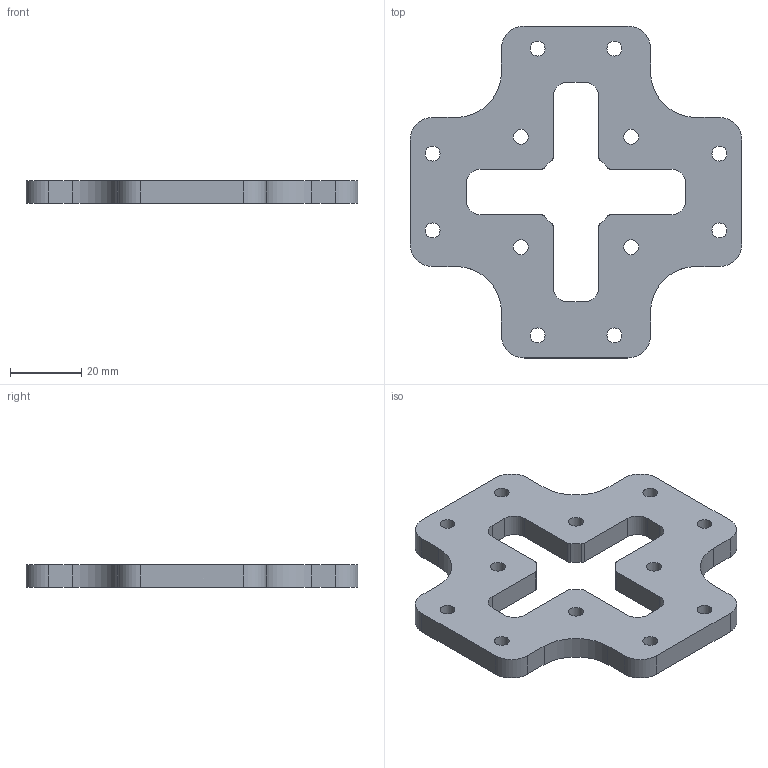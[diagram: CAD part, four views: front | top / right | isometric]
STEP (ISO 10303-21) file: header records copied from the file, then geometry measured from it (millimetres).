
FILE_DESCRIPTION(/* description */ ('STEP AP242 Edition 2','CAx-IF Rec.Pracs.---Representation and Presentation of Product Manufacturing Information (PMI)---4.0---2014-10-13','CAx-IF Rec.Pracs.---3D Tessellated Geometry---0.4---2014-09-14','2;1','CAx-IF Rec.Pracs.---User Defined Attributes---1.5---2016-08-15'),/* implementation_level */ '2;1');
FILE_NAME(/* name */ 'Assembly 1 - top plate',/* time_stamp */ '2026-09-25T20:07:30Z',/* author */ (''),/* organization */ (''),/* preprocessor_version */ 'ST-DEVELOPER v20',/* originating_system */ 'ONSHAPE BY PTC INC, 1.221',/* authorisation */ ' ');
FILE_SCHEMA (('AP242_MANAGED_MODEL_BASED_3D_ENGINEERING_MIM_LF { 1 0 10303 442 3 1 4 }'));
Length unit declared in the file: metre
Products named in the file (1): top plate
Bounding box: 93.29 x 93.29 x 6.35 mm (x, y, z)
Volume: 29021.3 mm3; surface area: 13670.7 mm2
Topology: 1 solids, 1 shells, 70 faces, 204 edges, 136 vertices
Faces by surface type: cylinder 44, plane 26
Full cylindrical faces by diameter (mm): 4.191 x12
Entity records: 2370 total; most frequent: DIRECTION 422, CARTESIAN_POINT 399, ORIENTED_EDGE 384, EDGE_CURVE 192, AXIS2_PLACEMENT_3D 159, VERTEX_POINT 136, EDGE_LOOP 108, FACE_BOUND 108
